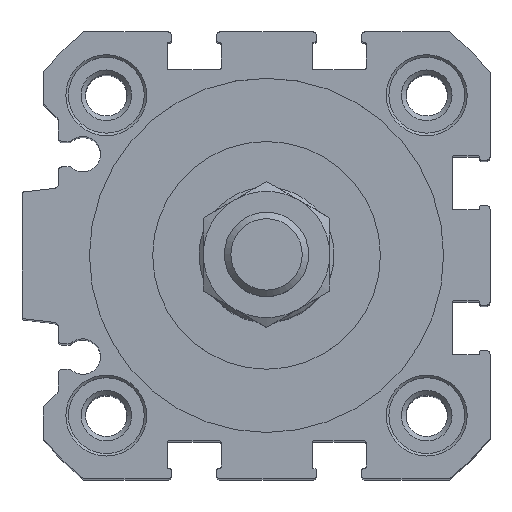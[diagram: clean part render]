
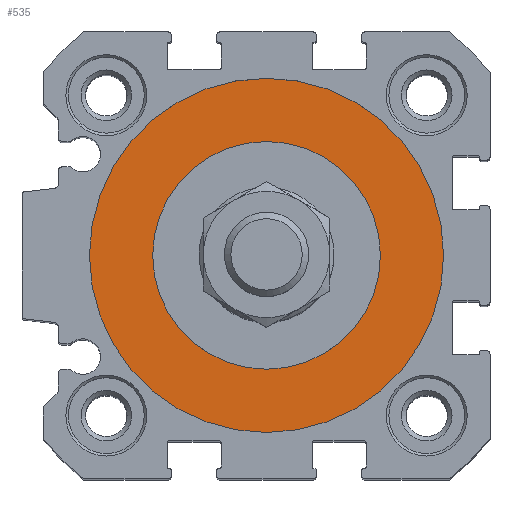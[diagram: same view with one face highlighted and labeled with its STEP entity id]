
A CAD part, top view. The second image highlights one B-rep face of the part: STEP entity #535.
In plain terms, the highlighted planar face has unit normal (0, 0, 1).
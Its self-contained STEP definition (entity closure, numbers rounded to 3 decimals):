
#535 = ADVANCED_FACE( '', ( #1176, #1177 ), #1178, .T. );
#1176 = FACE_BOUND( '', #1930, .T. );
#1177 = FACE_OUTER_BOUND( '', #1931, .T. );
#1178 = PLANE( '', #1932 );
#1930 = EDGE_LOOP( '', ( #3326 ) );
#1931 = EDGE_LOOP( '', ( #3327 ) );
#1932 = AXIS2_PLACEMENT_3D( '', #3328, #3329, #3330 );
#3326 = ORIENTED_EDGE( '', *, *, #4525, .F. );
#3327 = ORIENTED_EDGE( '', *, *, #4744, .T. );
#3328 = CARTESIAN_POINT( '', ( 0., 0., -1.8 ) );
#3329 = DIRECTION( '', ( 0., 0., 1. ) );
#3330 = DIRECTION( '', ( 1., 0., 0. ) );
#4525 = EDGE_CURVE( '', #5492, #5492, #5493, .T. );
#4744 = EDGE_CURVE( '', #5817, #5817, #5818, .T. );
#5492 = VERTEX_POINT( '', #6850 );
#5493 = CIRCLE( '', #6851, 13.5 );
#5817 = VERTEX_POINT( '', #7295 );
#5818 = CIRCLE( '', #7296, 21. );
#6850 = CARTESIAN_POINT( '', ( 13.5, 0., -1.8 ) );
#6851 = AXIS2_PLACEMENT_3D( '', #7989, #7990, #7991 );
#7295 = CARTESIAN_POINT( '', ( 21., 0., -1.8 ) );
#7296 = AXIS2_PLACEMENT_3D( '', #8318, #8319, #8320 );
#7989 = CARTESIAN_POINT( '', ( 0., 0., -1.8 ) );
#7990 = DIRECTION( '', ( 0., 0., 1. ) );
#7991 = DIRECTION( '', ( 1., 0., 0. ) );
#8318 = CARTESIAN_POINT( '', ( 0., 0., -1.8 ) );
#8319 = DIRECTION( '', ( 0., 0., 1. ) );
#8320 = DIRECTION( '', ( 1., 0., 0. ) );
